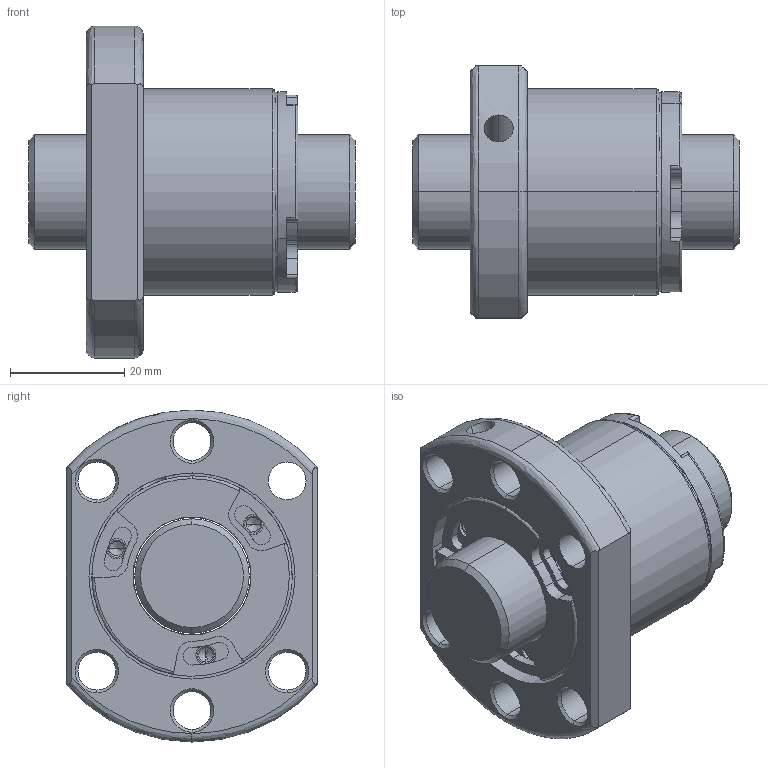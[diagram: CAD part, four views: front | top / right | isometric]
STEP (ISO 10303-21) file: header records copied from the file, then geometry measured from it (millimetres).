
FILE_DESCRIPTION (( 'STEP AP203' ), '1' );
FILE_NAME ('SFSR02005C1D-C.STEP', '2020-06-17T00:58:54', ( '' ), ( '' ), 'SwSTEP 2.0', 'SolidWorks 2013', '' );
FILE_SCHEMA (( 'CONFIG_CONTROL_DESIGN' ));
Length unit declared in the file: millimetre
Products named in the file (1): SFSR02005C1D-C
Bounding box: 57 x 44 x 58 mm (x, y, z)
Volume: 50514.2 mm3; surface area: 17634.2 mm2
Topology: 2 solids, 2 shells, 263 faces, 670 edges, 417 vertices
Faces by surface type: cylinder 129, plane 68, cone 50, bspline 16
Entity records: 8787 total; most frequent: CARTESIAN_POINT 2236, DIRECTION 1473, ORIENTED_EDGE 1316, EDGE_CURVE 658, AXIS2_PLACEMENT_3D 619, VERTEX_POINT 417, CIRCLE 371, EDGE_LOOP 299
